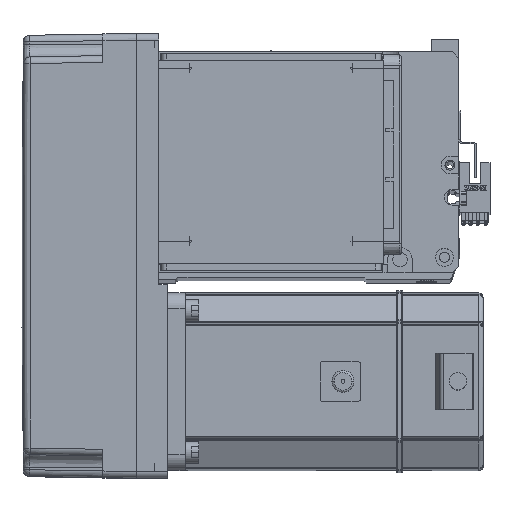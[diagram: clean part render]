
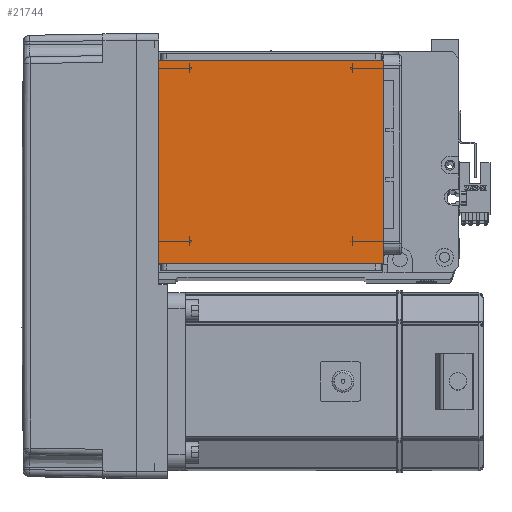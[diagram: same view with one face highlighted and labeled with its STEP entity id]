
A CAD part, top view. The second image highlights one B-rep face of the part: STEP entity #21744.
In plain terms, the highlighted planar face has unit normal (0, 0, 1).
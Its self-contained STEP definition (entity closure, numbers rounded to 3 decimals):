
#2332 = PLANE ( 'NONE',  #53508 ) ;
#2583 = DIRECTION ( 'NONE',  ( 1., 0., 0. ) ) ;
#5136 = CARTESIAN_POINT ( 'NONE',  ( -50.5, 122., 115. ) ) ;
#6911 = EDGE_CURVE ( 'NONE', #32057, #39595, #26800, .T. ) ;
#10563 = EDGE_CURVE ( 'NONE', #56133, #39595, #34039, .T. ) ;
#11123 = LINE ( 'NONE', #16656, #12532 ) ;
#11247 = EDGE_CURVE ( 'NONE', #32057, #40984, #11123, .T. ) ;
#12532 = VECTOR ( 'NONE', #39129, 1000. ) ;
#15266 = LINE ( 'NONE', #50252, #49143 ) ;
#16656 = CARTESIAN_POINT ( 'NONE',  ( 50.5, 122., 115. ) ) ;
#18476 = ORIENTED_EDGE ( 'NONE', *, *, #32805, .F. ) ;
#19377 = CARTESIAN_POINT ( 'NONE',  ( -50.5, 111.5, 115. ) ) ;
#19726 = CARTESIAN_POINT ( 'NONE',  ( -70.004, 20., 115. ) ) ;
#21744 = ADVANCED_FACE ( 'NONE', ( #43751 ), #2332, .T. ) ;
#22234 = VECTOR ( 'NONE', #40469, 1000. ) ;
#26800 = LINE ( 'NONE', #19726, #45470 ) ;
#29913 = DIRECTION ( 'NONE',  ( 0., 0., 1. ) ) ;
#32057 = VERTEX_POINT ( 'NONE', #44382 ) ;
#32805 = EDGE_CURVE ( 'NONE', #56133, #40984, #15266, .T. ) ;
#34039 = LINE ( 'NONE', #5136, #22234 ) ;
#39129 = DIRECTION ( 'NONE',  ( 0., 1., 0. ) ) ;
#39595 = VERTEX_POINT ( 'NONE', #52502 ) ;
#40469 = DIRECTION ( 'NONE',  ( 0., -1., 0. ) ) ;
#40984 = VERTEX_POINT ( 'NONE', #57049 ) ;
#43240 = DIRECTION ( 'NONE',  ( 1., 0., 0. ) ) ;
#43751 = FACE_OUTER_BOUND ( 'NONE', #57238, .T. ) ;
#44382 = CARTESIAN_POINT ( 'NONE',  ( 50.5, 20., 115. ) ) ;
#45470 = VECTOR ( 'NONE', #50643, 1000. ) ;
#49143 = VECTOR ( 'NONE', #2583, 1000. ) ;
#50252 = CARTESIAN_POINT ( 'NONE',  ( -70.004, 111.5, 115. ) ) ;
#50643 = DIRECTION ( 'NONE',  ( -1., 0., 0. ) ) ;
#50964 = CARTESIAN_POINT ( 'NONE',  ( 0., 0., 115. ) ) ;
#51340 = ORIENTED_EDGE ( 'NONE', *, *, #11247, .T. ) ;
#51392 = ORIENTED_EDGE ( 'NONE', *, *, #6911, .F. ) ;
#52502 = CARTESIAN_POINT ( 'NONE',  ( -50.5, 20., 115. ) ) ;
#53508 = AXIS2_PLACEMENT_3D ( 'NONE', #50964, #29913, #43240 ) ;
#53613 = ORIENTED_EDGE ( 'NONE', *, *, #10563, .T. ) ;
#56133 = VERTEX_POINT ( 'NONE', #19377 ) ;
#57049 = CARTESIAN_POINT ( 'NONE',  ( 50.5, 111.5, 115. ) ) ;
#57238 = EDGE_LOOP ( 'NONE', ( #18476, #53613, #51392, #51340 ) ) ;
